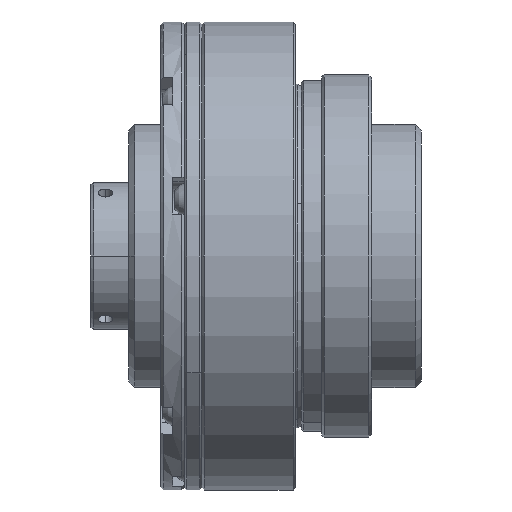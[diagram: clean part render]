
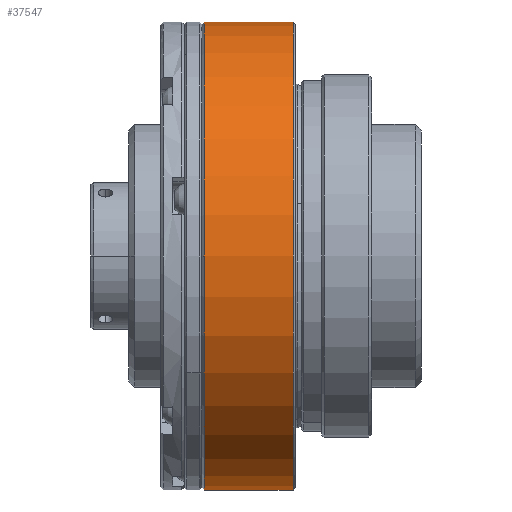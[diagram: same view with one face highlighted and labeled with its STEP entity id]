
A CAD part, front view. The second image highlights one B-rep face of the part: STEP entity #37547.
In plain terms, the highlighted cylindrical face has radius 40 mm (diameter 80 mm), a partial arc.
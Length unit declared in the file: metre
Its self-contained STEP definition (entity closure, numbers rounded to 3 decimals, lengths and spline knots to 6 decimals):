
#2366 = DIRECTION ( 'NONE',  ( 0., 0., 1. ) ) ;
#3417 = DIRECTION ( 'NONE',  ( -1., 0., 0. ) ) ;
#3419 = LINE ( 'NONE', #42049, #5689 ) ;
#5131 = CARTESIAN_POINT ( 'NONE',  ( 0.0194, -0.04, 0. ) ) ;
#5689 = VECTOR ( 'NONE', #30047, 1. ) ;
#7820 = LINE ( 'NONE', #47865, #32759 ) ;
#8200 = EDGE_CURVE ( 'NONE', #46659, #40286, #21023, .T. ) ;
#8876 = EDGE_CURVE ( 'NONE', #29753, #49121, #7820, .T. ) ;
#13820 = DIRECTION ( 'NONE',  ( 0., 0., 1. ) ) ;
#14533 = CARTESIAN_POINT ( 'NONE',  ( 0.0194, 0., 0. ) ) ;
#19179 = EDGE_CURVE ( 'NONE', #40286, #49121, #60302, .T. ) ;
#21023 = CIRCLE ( 'NONE', #55961, 0.04 ) ;
#22013 = ORIENTED_EDGE ( 'NONE', *, *, #39804, .T. ) ;
#23371 = CARTESIAN_POINT ( 'NONE',  ( 0.0346, 0., 0.04 ) ) ;
#24285 = EDGE_LOOP ( 'NONE', ( #47345, #61959, #22013, #43090, #28678 ) ) ;
#27617 = CARTESIAN_POINT ( 'NONE',  ( 0.0346, 0., -0.04 ) ) ;
#28678 = ORIENTED_EDGE ( 'NONE', *, *, #19179, .T. ) ;
#29753 = VERTEX_POINT ( 'NONE', #27617 ) ;
#30047 = DIRECTION ( 'NONE',  ( -1., 0., 0. ) ) ;
#30765 = DIRECTION ( 'NONE',  ( -1., 0., 0. ) ) ;
#32216 = AXIS2_PLACEMENT_3D ( 'NONE', #64973, #62927, #57460 ) ;
#32759 = VECTOR ( 'NONE', #3417, 1. ) ;
#33804 = CARTESIAN_POINT ( 'NONE',  ( 0.0194, 0., -0.04 ) ) ;
#35643 = DIRECTION ( 'NONE',  ( 1., 0., 0. ) ) ;
#37547 = ADVANCED_FACE ( 'NONE', ( #52697 ), #40681, .T. ) ;
#39804 = EDGE_CURVE ( 'NONE', #56734, #46659, #3419, .T. ) ;
#40286 = VERTEX_POINT ( 'NONE', #5131 ) ;
#40681 = CYLINDRICAL_SURFACE ( 'NONE', #32216, 0.04 ) ;
#41129 = DIRECTION ( 'NONE',  ( 0., 0., 1. ) ) ;
#42049 = CARTESIAN_POINT ( 'NONE',  ( 0.019, 0., 0.04 ) ) ;
#43090 = ORIENTED_EDGE ( 'NONE', *, *, #8200, .T. ) ;
#44138 = EDGE_CURVE ( 'NONE', #29753, #56734, #48824, .T. ) ;
#45887 = CARTESIAN_POINT ( 'NONE',  ( 0.0194, 0., 0. ) ) ;
#46659 = VERTEX_POINT ( 'NONE', #62797 ) ;
#47345 = ORIENTED_EDGE ( 'NONE', *, *, #8876, .F. ) ;
#47674 = AXIS2_PLACEMENT_3D ( 'NONE', #63578, #30765, #2366 ) ;
#47865 = CARTESIAN_POINT ( 'NONE',  ( 0.019, 0., -0.04 ) ) ;
#48824 = CIRCLE ( 'NONE', #47674, 0.04 ) ;
#49121 = VERTEX_POINT ( 'NONE', #33804 ) ;
#52697 = FACE_OUTER_BOUND ( 'NONE', #24285, .T. ) ;
#55961 = AXIS2_PLACEMENT_3D ( 'NONE', #14533, #65177, #13820 ) ;
#56734 = VERTEX_POINT ( 'NONE', #23371 ) ;
#57460 = DIRECTION ( 'NONE',  ( 0., 0., 1. ) ) ;
#60302 = CIRCLE ( 'NONE', #71984, 0.04 ) ;
#61959 = ORIENTED_EDGE ( 'NONE', *, *, #44138, .T. ) ;
#62797 = CARTESIAN_POINT ( 'NONE',  ( 0.0194, 0., 0.04 ) ) ;
#62927 = DIRECTION ( 'NONE',  ( -1., 0., 0. ) ) ;
#63578 = CARTESIAN_POINT ( 'NONE',  ( 0.0346, 0., 0. ) ) ;
#64973 = CARTESIAN_POINT ( 'NONE',  ( 0.019, 0., 0. ) ) ;
#65177 = DIRECTION ( 'NONE',  ( 1., 0., 0. ) ) ;
#71984 = AXIS2_PLACEMENT_3D ( 'NONE', #45887, #35643, #41129 ) ;
